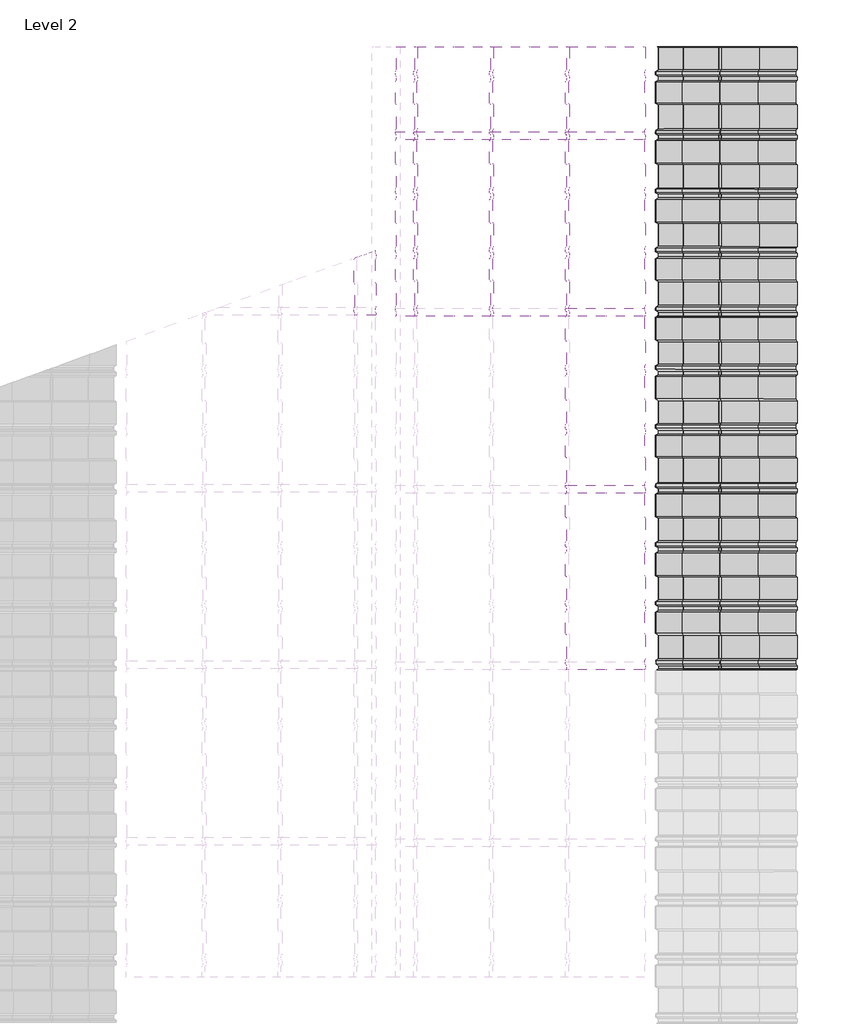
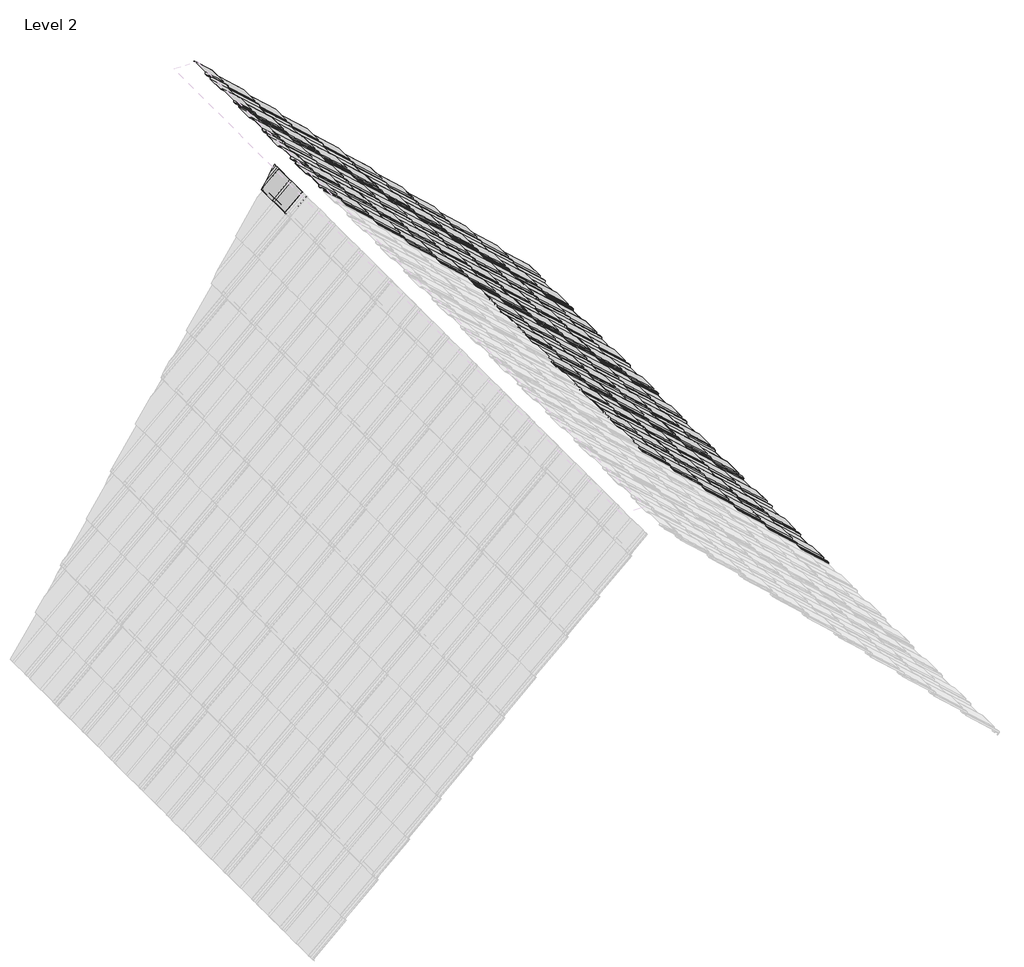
# One storey, part 4 of 4: 19 proxies.
"""IFC4 building model written with IfcOpenShell, lengths in millimetres."""

from ifc_helpers import new_model, si_unit, origin, place, context, project, spatial, faceted_brep, transform, mapped, element, save
from components import specialty_equipment_83d03673, specialty_equipment_ec8eb796, specialty_equipment_0748cc8f, specialty_equipment_d8c5127a

model = new_model("IFC4")

# Units and contexts
model_context = context("Model", 3, world=origin())
ifc_project = project(units=[si_unit("LENGTHUNIT", "METRE", prefix="MILLI")], contexts=[model_context])

# Site, building, storey
site = spatial("IfcSite", under=ifc_project)
building = spatial("IfcBuilding", under=site)
storey = spatial("IfcBuildingStorey", under=building, Name="Level 2", Elevation=4000.0)

# Proxies
placement = place(None, origin())
element("IfcBuildingElementProxy", 1, Name="AQUAPLAST - Blachodachówka Alice : Blachodachówka Alice", ObjectType="AQUAPLAST - Blachodachówka Alice : Blachodachówka Alice", at=placement, inside=storey, context=model_context, shape_type="Brep", body=[
    faceted_brep([(-5486.1199308, 14790.440766, 6771.6866742), (-5493.8372802, 14778.940766, 6780.212665), (-5493.8372802, 14632.2231888, 6780.212665), (-5486.1199308, 14620.7231888, 6771.6866742), (-5486.1199308, 14474.1039938, 6771.6866742), (-5493.8372802, 14462.6039938, 6780.212665), (-5493.8372802, 14440.8864165, 6780.212665), (-5486.1199308, 14429.3864165, 6771.6866742), (-5486.1199308, 14416.7302878, 6771.6866742), (-5474.9129973, 14416.7302878, 6759.3054528), (-5474.9129973, 14429.3864165, 6759.3054528), (-5482.6303467, 14440.8864165, 6767.8314436), (-5482.6303467, 14462.6039938, 6767.8314436), (-5474.9129973, 14474.1039938, 6759.3054528), (-5474.9129973, 14620.7231888, 6759.3054528), (-5482.6303467, 14632.2231888, 6767.8314436), (-5482.6303467, 14778.940766, 6767.8314436), (-5474.9129973, 14790.440766, 6759.3054528), (-5474.9129973, 14796.0297935, 6759.3054528), (-5486.1199308, 14791.9508033, 6771.6866742), (-5475.6543878, 14790.440766, 6758.634379), (-5483.3717372, 14778.940766, 6767.1603697), (-5483.3717372, 14632.2231888, 6767.1603697), (-5475.6543878, 14620.7231888, 6758.634379), (-5475.6543878, 14474.1039938, 6758.634379), (-5483.3717372, 14462.6039938, 6767.1603697), (-5483.3717372, 14440.8864165, 6767.1603697), (-5475.6543878, 14429.3864165, 6758.634379), (-5475.6543878, 14416.7302878, 6758.634379), (-5487.1968582, 14416.7302878, 6771.3862956), (-5487.1968582, 14429.1793097, 6771.3862956), (-5494.9142076, 14440.6793097, 6779.9122864), (-5494.9142076, 14462.8111006, 6779.9122864), (-5487.1968582, 14474.3111006, 6771.3862956), (-5487.1968582, 14620.516082, 6771.3862956), (-5494.9142076, 14632.016082, 6779.9122864), (-5494.9142076, 14779.1478728, 6779.9122864), (-5487.1968582, 14790.6478728, 6771.3862956), (-5487.1968582, 14791.5588338, 6771.3862956), (-5475.6543878, 14795.7599494, 6758.634379), (-5358.0925019, 14824.2336592, 6904.4316457), (-5358.0925019, 14838.5489766, 6904.4316457), (-5397.4235131, 14824.2336592, 6868.8309555), (-5350.0396156, 14812.2336592, 6895.5349596), (-5430.3932421, 14812.2336592, 6822.8024142), (-5350.0396156, 14790.6478728, 6895.5349596), (-5357.7569649, 14779.1478728, 6904.0609504), (-5357.7569649, 14632.016082, 6904.0609504), (-5350.0396156, 14620.516082, 6895.5349596), (-5350.0396156, 14474.3111006, 6895.5349596), (-5357.7569649, 14462.8111006, 6904.0609504), (-5357.7569649, 14440.6793097, 6904.0609504), (-5350.0396156, 14429.1793097, 6895.5349596), (-5350.0396156, 14416.7302878, 6895.5349596), (-5349.7040786, 14429.3864165, 6895.1642644), (-5349.7040786, 14416.7302878, 6895.1642644), (-5357.421428, 14440.8864165, 6903.6902552), (-5357.421428, 14462.6039938, 6903.6902552), (-5349.7040786, 14474.1039938, 6895.1642644), (-5349.7040786, 14620.7231888, 6895.1642644), (-5357.421428, 14632.2231888, 6903.6902552), (-5357.421428, 14778.940766, 6903.6902552), (-5349.7040786, 14790.440766, 6895.1642644), (-5429.8242209, 14812.440766, 6822.6430586), (-5349.7040786, 14812.440766, 6895.1642644), (-5357.7569649, 14824.440766, 6904.0609504), (-5396.8544919, 14824.440766, 6868.6715999), (-5357.7569649, 14838.6711021, 6904.0609504)], [[[0, 1, 2, 3, 4, 5, 6, 7, 8, 9, 10, 11, 12, 13, 14, 15, 16, 17, 18, 19]], [[20, 21, 22, 23, 24, 25, 26, 27, 28, 29, 30, 31, 32, 33, 34, 35, 36, 37, 38, 39]], [[40, 41, 42]], [[43, 40, 42, 44]], [[37, 45, 43, 44, 38]], [[37, 36, 46, 45]], [[36, 35, 47, 46]], [[35, 34, 48, 47]], [[34, 33, 49, 48]], [[33, 32, 50, 49]], [[32, 31, 51, 50]], [[31, 30, 52, 51]], [[30, 29, 53, 52]], [[8, 7, 54, 55]], [[7, 6, 56, 54]], [[6, 5, 57, 56]], [[5, 4, 58, 57]], [[4, 3, 59, 58]], [[3, 2, 60, 59]], [[2, 1, 61, 60]], [[1, 0, 62, 61]], [[62, 0, 19, 63, 64]], [[65, 64, 63, 66]], [[65, 66, 67]], [[10, 9, 28, 27]], [[11, 10, 27, 26]], [[12, 11, 26, 25]], [[13, 12, 25, 24]], [[14, 13, 24, 23]], [[15, 14, 23, 22]], [[16, 15, 22, 21]], [[17, 16, 21, 20]], [[17, 20, 39, 18]], [[9, 8, 55, 53, 29, 28]], [[40, 43, 45, 46, 47, 48, 49, 50, 51, 52, 53, 55, 54, 56, 57, 58, 59, 60, 61, 62, 64, 65, 67, 41]], [[19, 18, 39, 38, 44, 42, 41, 67, 66, 63]]]),
])
specialty_equipment_shape = specialty_equipment_83d03673(model_context)
element("IfcBuildingElementProxy", 2, Name="AQUAPLAST - Blachodachówka Alice : Blachodachówka Alice", ObjectType="AQUAPLAST - Blachodachówka Alice : Blachodachówka Alice", at=placement, inside=storey, context=model_context, shape_type="MappedRepresentation", body=[
    mapped(specialty_equipment_shape, transform((-2631.9401772, 12683.4901654, 4290.8668929), x_axis=(0.0, 1.0, 0.0), y_axis=(-0.7071067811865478, 0.0, 0.7071067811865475), z_axis=(0.7071067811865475, 0.0, 0.7071067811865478))),
])
element("IfcBuildingElementProxy", 3, Name="AQUAPLAST - Blachodachówka Alice : Blachodachówka Alice", ObjectType="AQUAPLAST - Blachodachówka Alice : Blachodachówka Alice", at=placement, inside=storey, context=model_context, shape_type="MappedRepresentation", body=[
    mapped(specialty_equipment_shape, transform((-2631.9401772, 13832.4901654, 4290.8668929), x_axis=(0.0, 1.0, 0.0), y_axis=(-0.7071067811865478, 0.0, 0.7071067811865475), z_axis=(0.7071067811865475, 0.0, 0.7071067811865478))),
])
element("IfcBuildingElementProxy", 4, Name="AQUAPLAST - Blachodachówka Alice : Blachodachówka Alice", ObjectType="AQUAPLAST - Blachodachówka Alice : Blachodachówka Alice", at=placement, inside=storey, context=model_context, shape_type="MappedRepresentation", body=[
    mapped(specialty_equipment_shape, transform((-2631.9401772, 14981.4901654, 4290.8668929), x_axis=(0.0, 1.0, 0.0), y_axis=(-0.7071067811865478, 0.0, 0.7071067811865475), z_axis=(0.7071067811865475, 0.0, 0.7071067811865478))),
])
element("IfcBuildingElementProxy", 5, Name="AQUAPLAST - Blachodachówka Alice : Blachodachówka Alice", ObjectType="AQUAPLAST - Blachodachówka Alice : Blachodachówka Alice", at=placement, inside=storey, context=model_context, shape_type="MappedRepresentation", body=[
    mapped(specialty_equipment_shape, transform((-3125.7835532, 12683.4901654, 4784.7102689), x_axis=(0.0, 1.0, 0.0), y_axis=(-0.7071067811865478, 0.0, 0.7071067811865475), z_axis=(0.7071067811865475, 0.0, 0.7071067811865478))),
])
element("IfcBuildingElementProxy", 6, Name="AQUAPLAST - Blachodachówka Alice : Blachodachówka Alice", ObjectType="AQUAPLAST - Blachodachówka Alice : Blachodachówka Alice", at=placement, inside=storey, context=model_context, shape_type="MappedRepresentation", body=[
    mapped(specialty_equipment_shape, transform((-3125.7835532, 13832.4901654, 4784.7102689), x_axis=(0.0, 1.0, 0.0), y_axis=(-0.7071067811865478, 0.0, 0.7071067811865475), z_axis=(0.7071067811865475, 0.0, 0.7071067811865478))),
])
element("IfcBuildingElementProxy", 7, Name="AQUAPLAST - Blachodachówka Alice : Blachodachówka Alice", ObjectType="AQUAPLAST - Blachodachówka Alice : Blachodachówka Alice", at=placement, inside=storey, context=model_context, shape_type="MappedRepresentation", body=[
    mapped(specialty_equipment_shape, transform((-3125.7835532, 14981.4901654, 4784.7102689), x_axis=(0.0, 1.0, 0.0), y_axis=(-0.7071067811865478, 0.0, 0.7071067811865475), z_axis=(0.7071067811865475, 0.0, 0.7071067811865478))),
])
element("IfcBuildingElementProxy", 8, Name="AQUAPLAST - Blachodachówka Alice : Blachodachówka Alice", ObjectType="AQUAPLAST - Blachodachówka Alice : Blachodachówka Alice", at=placement, inside=storey, context=model_context, shape_type="MappedRepresentation", body=[
    mapped(specialty_equipment_shape, transform((-3619.6269291, 12683.4901654, 5278.5536448), x_axis=(0.0, 1.0, 0.0), y_axis=(-0.7071067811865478, 0.0, 0.7071067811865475), z_axis=(0.7071067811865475, 0.0, 0.7071067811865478))),
])
element("IfcBuildingElementProxy", 9, Name="AQUAPLAST - Blachodachówka Alice : Blachodachówka Alice", ObjectType="AQUAPLAST - Blachodachówka Alice : Blachodachówka Alice", at=placement, inside=storey, context=model_context, shape_type="MappedRepresentation", body=[
    mapped(specialty_equipment_shape, transform((-3619.6269291, 13832.4901654, 5278.5536448), x_axis=(0.0, 1.0, 0.0), y_axis=(-0.7071067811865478, 0.0, 0.7071067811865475), z_axis=(0.7071067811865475, 0.0, 0.7071067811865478))),
])
element("IfcBuildingElementProxy", 10, Name="AQUAPLAST - Blachodachówka Alice : Blachodachówka Alice", ObjectType="AQUAPLAST - Blachodachówka Alice : Blachodachówka Alice", at=placement, inside=storey, context=model_context, shape_type="MappedRepresentation", body=[
    mapped(specialty_equipment_shape, transform((-3619.6269291, 14981.4901654, 5278.5536448), x_axis=(0.0, 1.0, 0.0), y_axis=(-0.7071067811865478, 0.0, 0.7071067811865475), z_axis=(0.7071067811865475, 0.0, 0.7071067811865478))),
])
element("IfcBuildingElementProxy", 11, Name="AQUAPLAST - Blachodachówka Alice : Blachodachówka Alice", ObjectType="AQUAPLAST - Blachodachówka Alice : Blachodachówka Alice", at=placement, inside=storey, context=model_context, shape_type="MappedRepresentation", body=[
    mapped(specialty_equipment_shape, transform((-4113.4703051, 14981.4901654, 5772.3970208), x_axis=(0.0, 1.0, 0.0), y_axis=(-0.7071067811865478, 0.0, 0.7071067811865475), z_axis=(0.7071067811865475, 0.0, 0.7071067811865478))),
])
element("IfcBuildingElementProxy", 12, Name="AQUAPLAST - Blachodachówka Alice : Blachodachówka Alice", ObjectType="AQUAPLAST - Blachodachówka Alice : Blachodachówka Alice", at=placement, inside=storey, context=model_context, shape_type="MappedRepresentation", body=[
    mapped(specialty_equipment_shape, transform((-4607.3136811, 14981.4901654, 6266.2403968), x_axis=(0.0, 1.0, 0.0), y_axis=(-0.7071067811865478, 0.0, 0.7071067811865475), z_axis=(0.7071067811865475, 0.0, 0.7071067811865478))),
])
specialty_equipment_2_shape = specialty_equipment_ec8eb796(model_context)
element("IfcBuildingElementProxy", 13, Name="AQUAPLAST - Blachodachówka Alice : Blachodachówka Alice", ObjectType="AQUAPLAST - Blachodachówka Alice : Blachodachówka Alice", at=placement, inside=storey, context=model_context, shape_type="MappedRepresentation", body=[
    mapped(specialty_equipment_2_shape, transform((-5101.1570571, 14981.4901654, 6760.0837728), x_axis=(0.0, 1.0, 0.0), y_axis=(-0.7071067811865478, 0.0, 0.7071067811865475), z_axis=(0.7071067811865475, 0.0, 0.7071067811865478))),
])
specialty_equipment_3_shape = specialty_equipment_0748cc8f(model_context)
element("IfcBuildingElementProxy", 14, Name="AQUAPLAST - Blachodachówka Alice : Blachodachówka Alice", ObjectType="AQUAPLAST - Blachodachówka Alice : Blachodachówka Alice", at=placement, inside=storey, context=model_context, shape_type="MappedRepresentation", body=[
    mapped(specialty_equipment_3_shape, transform((-2631.9401772, 16130.4901654, 4290.8668929), x_axis=(0.0, 1.0, 0.0), y_axis=(-0.7071067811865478, 0.0, 0.7071067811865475), z_axis=(0.7071067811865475, 0.0, 0.7071067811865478))),
])
element("IfcBuildingElementProxy", 15, Name="AQUAPLAST - Blachodachówka Alice : Blachodachówka Alice", ObjectType="AQUAPLAST - Blachodachówka Alice : Blachodachówka Alice", at=placement, inside=storey, context=model_context, shape_type="MappedRepresentation", body=[
    mapped(specialty_equipment_3_shape, transform((-3125.7835532, 16130.4901654, 4784.7102689), x_axis=(0.0, 1.0, 0.0), y_axis=(-0.7071067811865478, 0.0, 0.7071067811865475), z_axis=(0.7071067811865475, 0.0, 0.7071067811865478))),
])
element("IfcBuildingElementProxy", 16, Name="AQUAPLAST - Blachodachówka Alice : Blachodachówka Alice", ObjectType="AQUAPLAST - Blachodachówka Alice : Blachodachówka Alice", at=placement, inside=storey, context=model_context, shape_type="MappedRepresentation", body=[
    mapped(specialty_equipment_3_shape, transform((-3619.6269291, 16130.4901654, 5278.5536448), x_axis=(0.0, 1.0, 0.0), y_axis=(-0.7071067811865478, 0.0, 0.7071067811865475), z_axis=(0.7071067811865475, 0.0, 0.7071067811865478))),
])
element("IfcBuildingElementProxy", 17, Name="AQUAPLAST - Blachodachówka Alice : Blachodachówka Alice", ObjectType="AQUAPLAST - Blachodachówka Alice : Blachodachówka Alice", at=placement, inside=storey, context=model_context, shape_type="MappedRepresentation", body=[
    mapped(specialty_equipment_3_shape, transform((-4113.4703051, 16130.4901654, 5772.3970208), x_axis=(0.0, 1.0, 0.0), y_axis=(-0.7071067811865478, 0.0, 0.7071067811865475), z_axis=(0.7071067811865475, 0.0, 0.7071067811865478))),
])
element("IfcBuildingElementProxy", 18, Name="AQUAPLAST - Blachodachówka Alice : Blachodachówka Alice", ObjectType="AQUAPLAST - Blachodachówka Alice : Blachodachówka Alice", at=placement, inside=storey, context=model_context, shape_type="MappedRepresentation", body=[
    mapped(specialty_equipment_3_shape, transform((-4607.3136811, 16130.4901654, 6266.2403968), x_axis=(0.0, 1.0, 0.0), y_axis=(-0.7071067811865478, 0.0, 0.7071067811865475), z_axis=(0.7071067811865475, 0.0, 0.7071067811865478))),
])
specialty_equipment_4_shape = specialty_equipment_d8c5127a(model_context)
element("IfcBuildingElementProxy", 19, Name="AQUAPLAST - Blachodachówka Alice : Blachodachówka Alice", ObjectType="AQUAPLAST - Blachodachówka Alice : Blachodachówka Alice", at=placement, inside=storey, context=model_context, shape_type="MappedRepresentation", body=[
    mapped(specialty_equipment_4_shape, transform((-5101.1570571, 16130.4901654, 6760.0837728), x_axis=(0.0, 1.0, 0.0), y_axis=(-0.7071067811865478, 0.0, 0.7071067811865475), z_axis=(0.7071067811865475, 0.0, 0.7071067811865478))),
])

save(model, "model.ifc")
